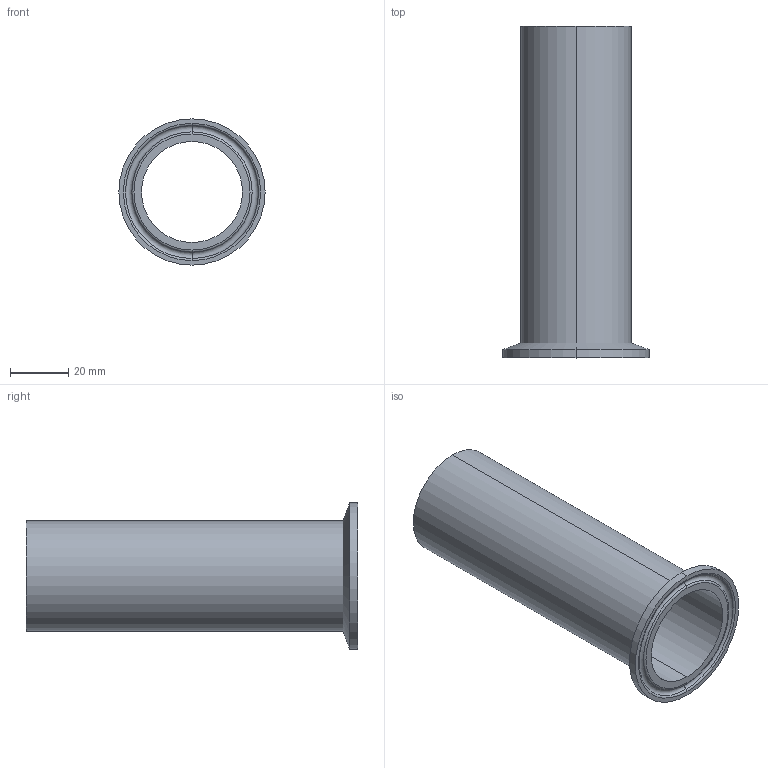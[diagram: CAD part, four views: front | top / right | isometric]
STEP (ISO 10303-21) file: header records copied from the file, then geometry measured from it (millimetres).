
FILE_DESCRIPTION (( 'STEP AP203' ), '1' );
FILE_NAME ('EG14HT1.5.STEP', '2018-05-01T13:18:05', ( 'vneprd' ), ( 'Microsoft' ), 'SwSTEP 2.0', 'SolidWorks 2014', '' );
FILE_SCHEMA (( 'CONFIG_CONTROL_DESIGN' ));
Length unit declared in the file: inch
Products named in the file (1): EG14HT1.5
Bounding box: 50.39 x 114.3 x 50.39 mm (x, y, z)
Volume: 24626.4 mm3; surface area: 28293.2 mm2
Topology: 1 solids, 1 shells, 17 faces, 34 edges, 20 vertices
Faces by surface type: cylinder 6, torus 6, plane 3, cone 2
Entity records: 533 total; most frequent: DIRECTION 96, CARTESIAN_POINT 72, ORIENTED_EDGE 68, AXIS2_PLACEMENT_3D 44, EDGE_CURVE 34, CIRCLE 26, EDGE_LOOP 20, VERTEX_POINT 20
